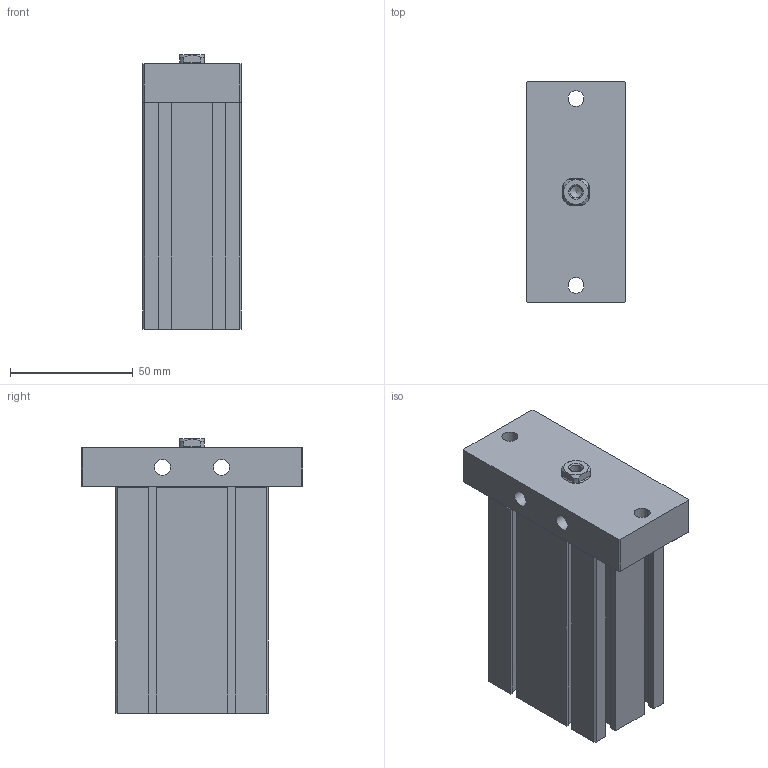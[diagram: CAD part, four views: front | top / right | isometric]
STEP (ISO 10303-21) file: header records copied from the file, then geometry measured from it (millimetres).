
FILE_DESCRIPTION((''),'2;1');
FILE_NAME('J:\3D電子目錄\氣缸\ND\ND\ND32-F\ND32x60-F.stp','2008-03-12T14:58:17',('66-2f-008'),(''),'Autodesk Inventor 11','Autodesk Inventor 11','');
FILE_SCHEMA(('AUTOMOTIVE_DESIGN { 1 0 10303 214 1 1 1 1 }'));
Length unit declared in the file: millimetre
Products named in the file (1): ND32-F
Bounding box: 40 x 90 x 111.5 mm (x, y, z)
Volume: 256145.5 mm3; surface area: 44467.7 mm2
Topology: 2 solids, 2 shells, 145 faces, 371 edges, 239 vertices
Faces by surface type: plane 105, bspline 16, cone 12, cylinder 11, torus 1
Full cylindrical faces by diameter (mm): 2.2 x2, 6.5 x2, 23 x1, 34 x1, 36 x1
Entity records: 4318 total; most frequent: CARTESIAN_POINT 948, ORIENTED_EDGE 674, DIRECTION 650, EDGE_CURVE 337, VECTOR 268, LINE 268, VERTEX_POINT 233, AXIS2_PLACEMENT_3D 191
